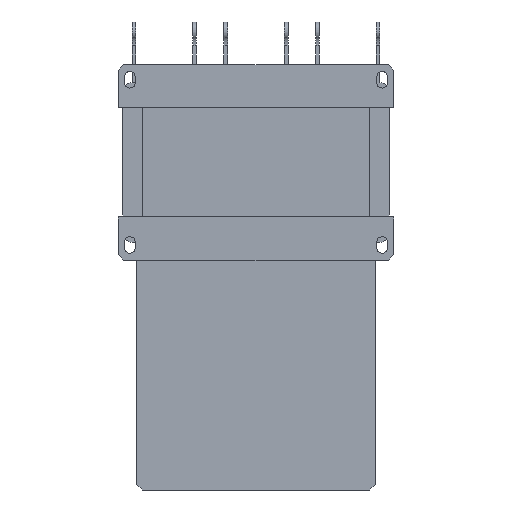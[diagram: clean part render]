
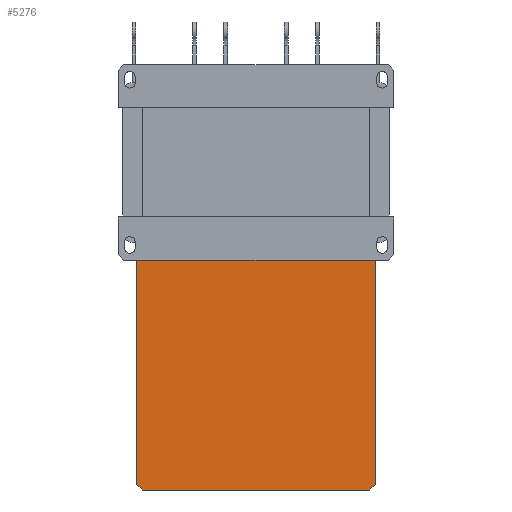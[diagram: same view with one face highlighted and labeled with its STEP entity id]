
A CAD part, front view. The second image highlights one B-rep face of the part: STEP entity #5276.
In plain terms, the highlighted planar face has unit normal (0, -1, 0).
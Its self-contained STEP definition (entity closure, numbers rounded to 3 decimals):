
#592=FACE_OUTER_BOUND('',#936,.T.);
#936=EDGE_LOOP('',(#4325,#4326,#4327,#4328,#4329,#4330));
#1401=LINE('',#8447,#1949);
#1407=LINE('',#8458,#1955);
#1413=LINE('',#8470,#1961);
#1417=LINE('',#8478,#1965);
#1418=LINE('',#8481,#1966);
#1422=LINE('',#8488,#1970);
#1949=VECTOR('',#6887,10.);
#1955=VECTOR('',#6895,10.);
#1961=VECTOR('',#6905,10.);
#1965=VECTOR('',#6911,10.);
#1966=VECTOR('',#6914,10.);
#1970=VECTOR('',#6920,10.);
#2467=VERTEX_POINT('',#8445);
#2468=VERTEX_POINT('',#8446);
#2472=VERTEX_POINT('',#8456);
#2476=VERTEX_POINT('',#8468);
#2479=VERTEX_POINT('',#8476);
#2480=VERTEX_POINT('',#8480);
#3099=EDGE_CURVE('',#2467,#2468,#1401,.T.);
#3105=EDGE_CURVE('',#2467,#2472,#1407,.T.);
#3111=EDGE_CURVE('',#2476,#2472,#1413,.T.);
#3115=EDGE_CURVE('',#2479,#2476,#1417,.T.);
#3116=EDGE_CURVE('',#2468,#2480,#1418,.T.);
#3120=EDGE_CURVE('',#2479,#2480,#1422,.T.);
#4325=ORIENTED_EDGE('',*,*,#3099,.F.);
#4326=ORIENTED_EDGE('',*,*,#3105,.T.);
#4327=ORIENTED_EDGE('',*,*,#3111,.F.);
#4328=ORIENTED_EDGE('',*,*,#3115,.F.);
#4329=ORIENTED_EDGE('',*,*,#3120,.T.);
#4330=ORIENTED_EDGE('',*,*,#3116,.F.);
#5004=PLANE('',#5760);
#5276=ADVANCED_FACE('',(#592),#5004,.T.);
#5760=AXIS2_PLACEMENT_3D('',#8493,#6927,#6928);
#6887=DIRECTION('',(-0.707,0.,0.707));
#6895=DIRECTION('',(1.,0.,0.));
#6905=DIRECTION('',(-0.707,0.,-0.707));
#6911=DIRECTION('',(0.,0.,-1.));
#6914=DIRECTION('',(0.,0.,1.));
#6920=DIRECTION('',(-1.,0.,0.));
#6927=DIRECTION('center_axis',(0.,-1.,0.));
#6928=DIRECTION('ref_axis',(0.,0.,-1.));
#8445=CARTESIAN_POINT('',(-124.,34.,-357.));
#8446=CARTESIAN_POINT('',(-130.,34.,-351.));
#8447=CARTESIAN_POINT('',(-166.875,34.,-314.125));
#8456=CARTESIAN_POINT('',(124.,34.,-357.));
#8458=CARTESIAN_POINT('',(0.,34.,-357.));
#8468=CARTESIAN_POINT('',(130.,34.,-351.));
#8470=CARTESIAN_POINT('',(166.875,34.,-314.125));
#8476=CARTESIAN_POINT('',(130.,34.,-67.5));
#8478=CARTESIAN_POINT('',(130.,34.,-67.5));
#8480=CARTESIAN_POINT('',(-130.,34.,-67.5));
#8481=CARTESIAN_POINT('',(-130.,34.,-67.5));
#8488=CARTESIAN_POINT('',(0.,34.,-67.5));
#8493=CARTESIAN_POINT('Origin',(0.,34.,-67.5));
